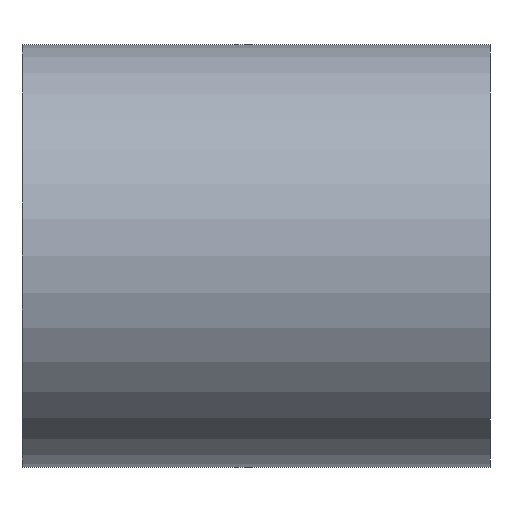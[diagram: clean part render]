
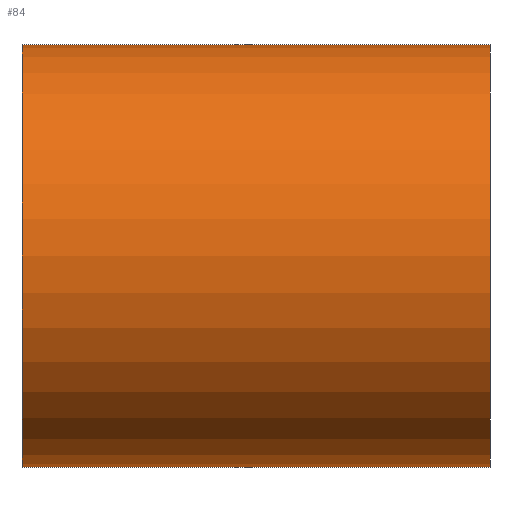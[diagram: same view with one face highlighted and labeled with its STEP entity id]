
A CAD part, front view. The second image highlights one B-rep face of the part: STEP entity #84.
In plain terms, the highlighted cylindrical face has radius 305 mm (diameter 610 mm), a partial arc.
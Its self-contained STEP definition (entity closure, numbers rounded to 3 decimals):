
#84=ADVANCED_FACE('',(#164),#165,.T.);
#164=FACE_OUTER_BOUND('',#255,.T.);
#165=CYLINDRICAL_SURFACE('',#256,305.0);
#255=EDGE_LOOP('',(#435,#436,#437,#438));
#256=AXIS2_PLACEMENT_3D('',#439,#440,#441);
#435=ORIENTED_EDGE('',*,*,#491,.T.);
#436=ORIENTED_EDGE('',*,*,#568,.F.);
#437=ORIENTED_EDGE('',*,*,#493,.T.);
#438=ORIENTED_EDGE('',*,*,#569,.F.);
#439=CARTESIAN_POINT('',(0.0,0.0,0.0));
#440=DIRECTION('',(1.0,0.0,0.0));
#441=DIRECTION('',(0.0,0.0,-1.0));
#491=EDGE_CURVE('',#573,#574,#575,.T.);
#493=EDGE_CURVE('',#578,#576,#579,.T.);
#568=EDGE_CURVE('',#578,#574,#690,.T.);
#569=EDGE_CURVE('',#573,#576,#691,.T.);
#573=VERTEX_POINT('',#695);
#574=VERTEX_POINT('',#696);
#575=LINE('',#697,#698);
#576=VERTEX_POINT('',#699);
#578=VERTEX_POINT('',#701);
#579=LINE('',#702,#703);
#690=CIRCLE('',#832,305.0);
#691=CIRCLE('',#833,305.0);
#695=CARTESIAN_POINT('',(-337.5,0.0,-305.0));
#696=CARTESIAN_POINT('',(337.5,0.0,-305.0));
#697=CARTESIAN_POINT('',(0.0,0.,-305.0));
#698=VECTOR('',#836,1.0);
#699=CARTESIAN_POINT('',(-337.5,0.,305.0));
#701=CARTESIAN_POINT('',(337.5,0.,305.0));
#702=CARTESIAN_POINT('',(0.0,0.,305.0));
#703=VECTOR('',#840,1.0);
#832=AXIS2_PLACEMENT_3D('',#970,#971,#972);
#833=AXIS2_PLACEMENT_3D('',#973,#974,#975);
#836=DIRECTION('',(1.0,0.0,0.0));
#840=DIRECTION('',(-1.0,-0.0,-0.0));
#970=CARTESIAN_POINT('',(337.5,0.0,0.0));
#971=DIRECTION('',(1.0,0.0,0.0));
#972=DIRECTION('',(0.0,0.0,-1.0));
#973=CARTESIAN_POINT('',(-337.5,0.0,0.0));
#974=DIRECTION('',(-1.0,0.0,0.0));
#975=DIRECTION('',(0.0,0.0,-1.0));
